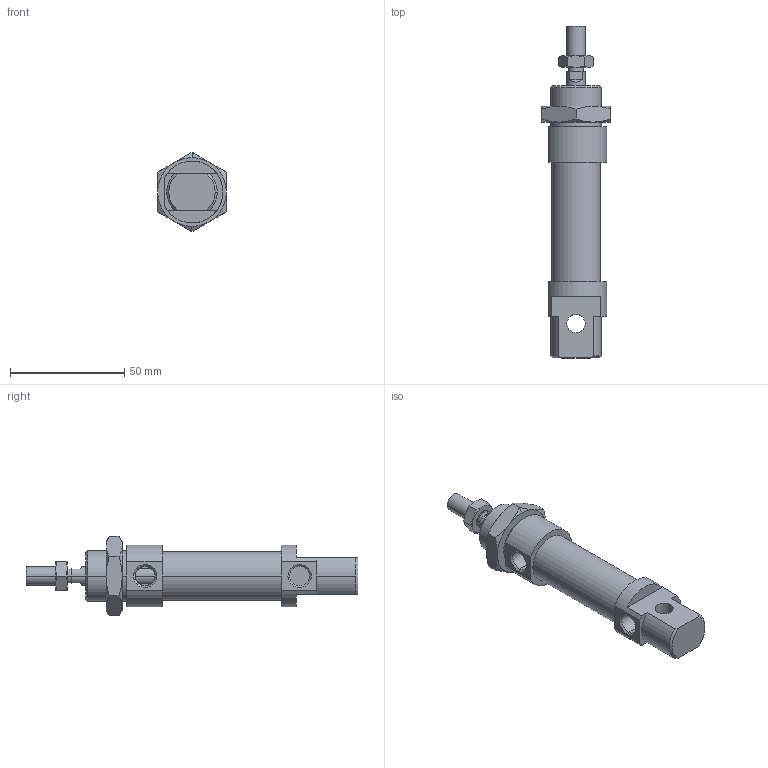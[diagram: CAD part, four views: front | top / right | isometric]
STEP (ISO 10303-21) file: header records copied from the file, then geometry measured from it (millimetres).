
FILE_DESCRIPTION((''),'2;1');
FILE_NAME('I:\DOC-EDP\Lib-3d\1200\CILINDRI\1280\1280_20_0015.stp','2003-04-07T15:48:59',('maffial1'),(''),'Autodesk Inventor (R) 6.0','Autodesk Inventor (R) 6.0','');
FILE_SCHEMA(('AUTOMOTIVE_DESIGN { 1 0 10303 214 1 1 1 1 }'));
Length unit declared in the file: millimetre
Products named in the file (5): 1280_20_0015; S1280_20_15; 1200_20_05; 1200_20_06; C1280_20_15
Assembly tree (4 placements, depth 2):
  1280_20_0015
    S1280_20_15
    1200_20_05
    1200_20_06
    C1280_20_15
Bounding box: 30 x 145 x 34.64 mm (x, y, z)
Volume: 49651.5 mm3; surface area: 16284.5 mm2
Topology: 4 solids, 4 shells, 124 faces, 281 edges, 170 vertices
Faces by surface type: plane 41, cone 40, cylinder 22, bspline 21
Entity records: 3816 total; most frequent: CARTESIAN_POINT 1039, DIRECTION 573, ORIENTED_EDGE 562, EDGE_CURVE 281, AXIS2_PLACEMENT_3D 236, VERTEX_POINT 170, EDGE_LOOP 137, FACE_OUTER_BOUND 124
